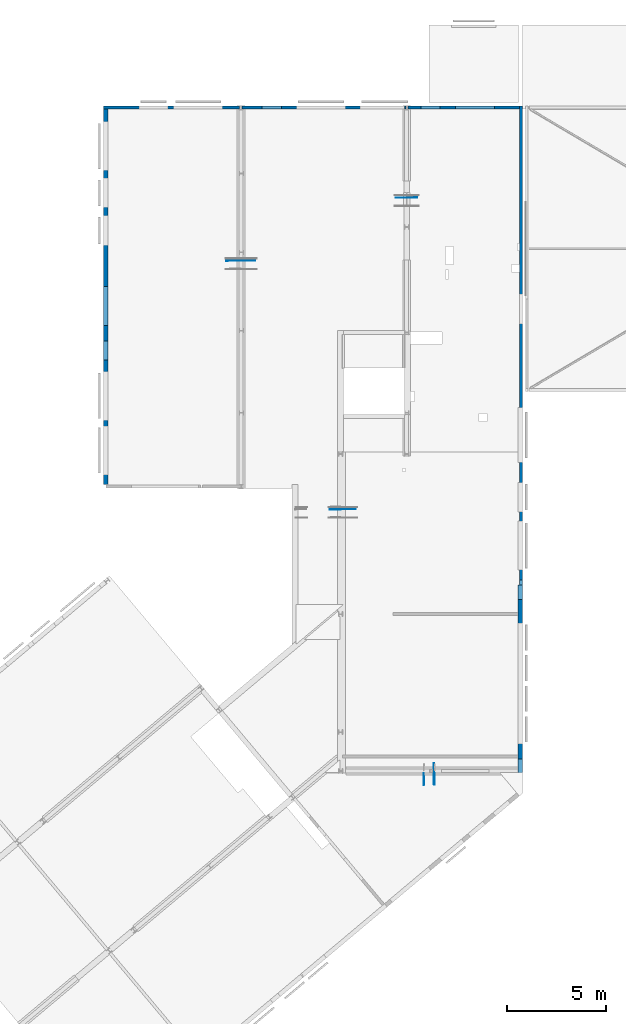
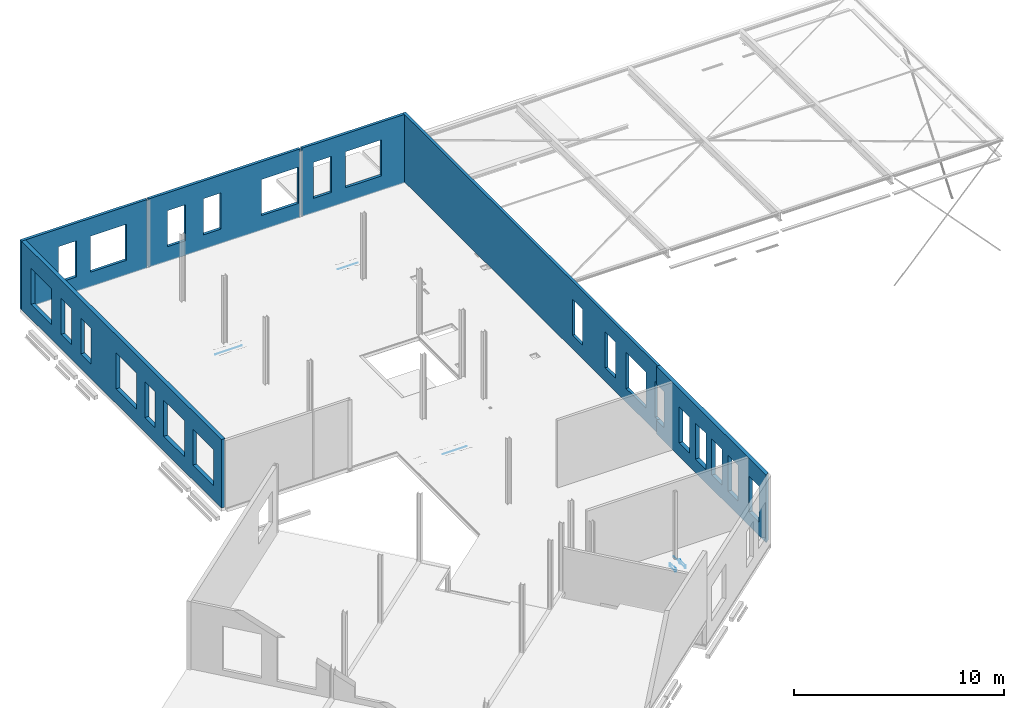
# One storey, part 13 of 16: 6 reinforcing bars, 6 walls, 24 openings.
"""IFC2X3 building model written with IfcOpenShell, lengths in millimetres."""

from ifc_helpers import new_model, entity, si_unit, converted_unit, derived_unit, direction, frame, frame_2d, origin, origin_2d_with_axis, place, context, subcontext, project, spatial, polyline, rectangle, outline, extrude, material, layer, layer_set, layer_usage, type_object, element, save


model = new_model("IFC2X3")

# Units and contexts
model_context = context("Model", 3, precision=0.01, world=origin(), true_north=direction((6.12303176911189e-17, 1.0)))
body_context = subcontext(model_context, "Body", "Model", "MODEL_VIEW")
ifc_project = project(units=[si_unit("LENGTHUNIT", "METRE", prefix="MILLI"), si_unit("AREAUNIT", "SQUARE_METRE"), si_unit("VOLUMEUNIT", "CUBIC_METRE"), converted_unit("PLANEANGLEUNIT", "DEGREE", entity("IfcRatioMeasure", 0.0174532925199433), si_unit("PLANEANGLEUNIT", "RADIAN"), dimensions=[0, 0, 0, 0, 0, 0, 0]), si_unit("MASSUNIT", "GRAM", prefix="KILO"), derived_unit("MASSDENSITYUNIT", [(si_unit("MASSUNIT", "GRAM", prefix="KILO"), 1), (si_unit("LENGTHUNIT", "METRE"), -3)]), derived_unit("MOMENTOFINERTIAUNIT", [(si_unit("LENGTHUNIT", "METRE"), 4)]), si_unit("TIMEUNIT", "SECOND"), si_unit("FREQUENCYUNIT", "HERTZ"), si_unit("THERMODYNAMICTEMPERATUREUNIT", "DEGREE_CELSIUS"), derived_unit("THERMALTRANSMITTANCEUNIT", [(si_unit("MASSUNIT", "GRAM", prefix="KILO"), 1), (si_unit("THERMODYNAMICTEMPERATUREUNIT", "KELVIN"), -1), (si_unit("TIMEUNIT", "SECOND"), -3)]), derived_unit("VOLUMETRICFLOWRATEUNIT", [(si_unit("LENGTHUNIT", "METRE"), 3), (si_unit("TIMEUNIT", "SECOND"), -1)]), si_unit("ELECTRICCURRENTUNIT", "AMPERE"), si_unit("ELECTRICVOLTAGEUNIT", "VOLT"), si_unit("POWERUNIT", "WATT"), si_unit("FORCEUNIT", "NEWTON", prefix="KILO"), si_unit("ILLUMINANCEUNIT", "LUX"), si_unit("LUMINOUSFLUXUNIT", "LUMEN"), si_unit("LUMINOUSINTENSITYUNIT", "CANDELA"), derived_unit("USERDEFINED", [(si_unit("MASSUNIT", "GRAM", prefix="KILO"), -1), (si_unit("LENGTHUNIT", "METRE"), -2), (si_unit("TIMEUNIT", "SECOND"), 3), (si_unit("LUMINOUSFLUXUNIT", "LUMEN"), 1)]), derived_unit("LINEARVELOCITYUNIT", [(si_unit("LENGTHUNIT", "METRE"), 1), (si_unit("TIMEUNIT", "SECOND"), -1)]), si_unit("PRESSUREUNIT", "PASCAL"), derived_unit("USERDEFINED", [(si_unit("LENGTHUNIT", "METRE"), -2), (si_unit("MASSUNIT", "GRAM", prefix="KILO"), 1), (si_unit("TIMEUNIT", "SECOND"), -2)]), derived_unit("LINEARFORCEUNIT", [(si_unit("MASSUNIT", "GRAM", prefix="KILO"), 1), (si_unit("LENGTHUNIT", "METRE"), 1), (si_unit("TIMEUNIT", "SECOND"), -2), (si_unit("LENGTHUNIT", "METRE"), -1)]), derived_unit("PLANARFORCEUNIT", [(si_unit("MASSUNIT", "GRAM", prefix="KILO"), 1), (si_unit("LENGTHUNIT", "METRE"), 1), (si_unit("TIMEUNIT", "SECOND"), -2), (si_unit("LENGTHUNIT", "METRE"), -2)])], contexts=[model_context])

# Site, building, storey
site_placement = place(None, origin())
site = spatial("IfcSite", under=ifc_project, at=site_placement, Name="Default", CompositionType="ELEMENT")
building_placement = place(site_placement, origin())
building = spatial("IfcBuilding", under=site, at=building_placement, CompositionType="ELEMENT")
storey_placement = place(building_placement, frame((0.0, 0.0, 3500.0)))
storey = spatial("IfcBuildingStorey", under=building, at=storey_placement, Name="01 eerste verdieping", CompositionType="ELEMENT", Elevation=3500.00000000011)

# Wall, openings
ifc_material = material(Name="f1_kalkzandsteen")
ifc_layer_1 = layer(ifc_material, 214.0)
ifc_layer_set_1 = layer_set([ifc_layer_1], Name="Basic Wall:BERSnl_22_WA_kalkzandsteen214")
ifc_layer_usage_1 = layer_usage(ifc_layer_set_1, "AXIS2", "NEGATIVE", 107.0)
wall_type_1 = type_object("IfcWallType", Name="Basic Wall:BERSnl_22_WA_kalkzandsteen214", PredefinedType="STANDARD", material=ifc_layer_set_1)
wall_1_placement = place(storey_placement, frame((13702.4349765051, 16287.2966282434, 350.0), z_axis=(0.0, 0.0, 1.0), x_axis=(0.0, 1.0, 0.0)))
wall_1 = element("IfcWallStandardCase", 1, at=wall_1_placement, inside=storey, type_object=wall_type_1, material=ifc_layer_usage_1, Name="Basic Wall:BERSnl_22_WA_kalkzandsteen214", ObjectType="Basic Wall:BERSnl_22_WA_kalkzandsteen214", context=body_context, shape_type="SweptSolid", body=[
    extrude(rectangle(XDim=19059.0, YDim=213.999999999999, at=frame_2d((9529.5, -6.3948846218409e-14), x_axis=(-1.0, 0.0))), origin(), (0.0, 0.0, 1.0), 3990.0),
])
opening_1_placement = place(wall_1_placement, origin())
element("IfcOpeningElement", 2, at=opening_1_placement, cuts=wall_1, Name="Basic Wall:BERSnl_22_WA_kalkzandsteen214", ObjectType="Opening", context=body_context, shape_type="SweptSolid", body=[
    extrude(rectangle(XDim=2099.99999999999, YDim=1986.0, at=frame_2d((-5.6843418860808e-13, 0.0), x_axis=(1.0, 0.0))), frame((17174.0, -107.0, 1900.0), z_axis=(0.0, 1.0, 0.0), x_axis=(0.0, 0.0, -1.0)), (0.0, 0.0, 1.0), 213.999999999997),
])
opening_2_placement = place(wall_1_placement, origin())
element("IfcOpeningElement", 3, at=opening_2_placement, cuts=wall_1, Name="Basic Wall:BERSnl_22_WA_kalkzandsteen214", ObjectType="Opening", context=body_context, shape_type="SweptSolid", body=[
    extrude(rectangle(XDim=2100.0, YDim=986.000000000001, at=frame_2d((5.6843418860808e-13, 0.0), x_axis=(1.0, 0.0))), frame((14794.1777390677, -107.0, 1900.0), z_axis=(0.0, 1.0, 0.0), x_axis=(0.0, 0.0, -1.0)), (0.0, 0.0, 1.0), 213.999999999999),
])
opening_3_placement = place(wall_1_placement, origin())
element("IfcOpeningElement", 4, at=opening_3_placement, cuts=wall_1, Name="Basic Wall:BERSnl_22_WA_kalkzandsteen214", ObjectType="Opening", context=body_context, shape_type="SweptSolid", body=[
    extrude(rectangle(XDim=2100.0, YDim=971.020444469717, at=frame_2d((5.6843418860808e-13, 4.34852154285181e-12), x_axis=(1.0, 0.0))), frame((12921.6675168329, -107.0, 1900.0), z_axis=(0.0, 1.0, 0.0), x_axis=(0.0, 0.0, -1.0)), (0.0, 0.0, 1.0), 213.999999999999),
])
opening_4_placement = place(wall_1_placement, origin())
element("IfcOpeningElement", 5, at=opening_4_placement, cuts=wall_1, Name="Basic Wall:BERSnl_22_WA_kalkzandsteen214", ObjectType="Opening", context=body_context, shape_type="SweptSolid", body=[
    extrude(rectangle(XDim=2099.99999999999, YDim=1978.44267040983, at=frame_2d((-5.6843418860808e-13, -2.1600499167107e-12), x_axis=(1.0, 0.0))), frame((9058.93595939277, -107.0, 1900.0), z_axis=(0.0, 1.0, 0.0), x_axis=(0.0, 0.0, -1.0)), (0.0, 0.0, 1.0), 213.999999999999),
])
opening_5_placement = place(wall_1_placement, origin())
element("IfcOpeningElement", 6, at=opening_5_placement, cuts=wall_1, Name="Basic Wall:BERSnl_22_WA_kalkzandsteen214", ObjectType="Opening", context=body_context, shape_type="SweptSolid", body=[
    extrude(rectangle(XDim=2100.0, YDim=985.715161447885, at=frame_2d((5.6843418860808e-13, -2.1600499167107e-12), x_axis=(1.0, 0.0))), frame((6798.21879128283, -107.0, 1900.0), z_axis=(0.0, 1.0, 0.0), x_axis=(0.0, 0.0, -1.0)), (0.0, 0.0, 1.0), 213.999999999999),
])
opening_6_placement = place(wall_1_placement, origin())
element("IfcOpeningElement", 7, at=opening_6_placement, cuts=wall_1, Name="Basic Wall:BERSnl_22_WA_kalkzandsteen214", ObjectType="Opening", context=body_context, shape_type="SweptSolid", body=[
    extrude(rectangle(XDim=2099.99999999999, YDim=1986.0, at=frame_2d((-5.6843418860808e-13, 0.0), x_axis=(1.0, 0.0))), frame((4500.17773906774, -107.0, 1900.0), z_axis=(0.0, 1.0, 0.0), x_axis=(0.0, 0.0, -1.0)), (0.0, 0.0, 1.0), 213.999999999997),
])
opening_7_placement = place(wall_1_placement, origin())
element("IfcOpeningElement", 8, at=opening_7_placement, cuts=wall_1, Name="Basic Wall:BERSnl_22_WA_kalkzandsteen214", ObjectType="Opening", context=body_context, shape_type="SweptSolid", body=[
    extrude(rectangle(XDim=2099.99999999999, YDim=1986.44267041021, at=frame_2d((-3.41060513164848e-13, 0.0), x_axis=(1.0, 0.0))), frame((1729.95640386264, -107.0, 1900.0), z_axis=(0.0, 1.0, 0.0), x_axis=(0.0, 0.0, -1.0)), (0.0, 0.0, 1.0), 213.999999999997),
])

ifc_layer_usage_2 = layer_usage(ifc_layer_set_1, "AXIS2", "NEGATIVE", 107.0)
wall_2_placement = place(storey_placement, frame((34726.4270571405, 703.534594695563, 410.0), z_axis=(0.0, 0.0, 1.0), x_axis=(0.0, 1.0, 0.0)))
wall_2 = element("IfcWallStandardCase", 9, at=wall_2_placement, inside=storey, type_object=wall_type_1, material=ifc_layer_usage_2, Name="Basic Wall:BERSnl_22_WA_kalkzandsteen214", ObjectType="Basic Wall:BERSnl_22_WA_kalkzandsteen214", context=body_context, shape_type="SweptSolid", body=[
    extrude(outline(polyline([(10488.7620335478, -107.0), (10488.7620335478, 43.0), (10488.7620335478, 107.0), (9081.7620335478, 107.0), (8931.7620335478, 107.0), (1853.41568474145, 107.0), (1703.41568474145, 107.0), (0.0, 107.0), (179.567321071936, -107.0), (10488.7620335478, -107.0)])), origin(), (0.0, 0.0, 1.0), 3930.0),
])
opening_8_placement = place(wall_2_placement, origin())
element("IfcOpeningElement", 10, at=opening_8_placement, cuts=wall_2, Name="Basic Wall:BERSnl_22_WA_kalkzandsteen214", ObjectType="Opening", context=body_context, shape_type="SweptSolid", body=[
    extrude(rectangle(XDim=2100.00000000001, YDim=735.999999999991, at=frame_2d((-2.27373675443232e-13, -1.08002495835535e-12), x_axis=(1.0, 0.0))), frame((10120.7620335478, -107.0, 1840.0), z_axis=(0.0, 1.0, 0.0), x_axis=(0.0, 0.0, -1.0)), (0.0, 0.0, 1.0), 214.000000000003),
])
opening_9_placement = place(wall_2_placement, origin())
element("IfcOpeningElement", 11, at=opening_9_placement, cuts=wall_2, Name="Basic Wall:BERSnl_22_WA_kalkzandsteen214", ObjectType="Opening", context=body_context, shape_type="SweptSolid", body=[
    extrude(rectangle(XDim=2100.00000000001, YDim=985.999999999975, at=origin_2d_with_axis()), frame((7815.03574275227, -107.0, 1840.0), z_axis=(0.0, 1.0, 0.0), x_axis=(0.0, 0.0, -1.0)), (0.0, 0.0, 1.0), 214.000000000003),
])
opening_10_placement = place(wall_2_placement, origin())
element("IfcOpeningElement", 12, at=opening_10_placement, cuts=wall_2, Name="Basic Wall:BERSnl_22_WA_kalkzandsteen214", ObjectType="Opening", context=body_context, shape_type="SweptSolid", body=[
    extrude(rectangle(XDim=2100.00000000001, YDim=985.999999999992, at=frame_2d((2.27373675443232e-13, 0.0), x_axis=(1.0, 0.0))), frame((6265.03574275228, -107.0, 1840.0), z_axis=(0.0, 1.0, 0.0), x_axis=(0.0, 0.0, -1.0)), (0.0, 0.0, 1.0), 214.000000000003),
])
opening_11_placement = place(wall_2_placement, origin())
element("IfcOpeningElement", 13, at=opening_11_placement, cuts=wall_2, Name="Basic Wall:BERSnl_22_WA_kalkzandsteen214", ObjectType="Opening", context=body_context, shape_type="SweptSolid", body=[
    extrude(rectangle(XDim=2100.00000000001, YDim=985.999999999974, at=frame_2d((-2.27373675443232e-13, 5.40012479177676e-13), x_axis=(1.0, 0.0))), frame((4715.03574275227, -107.0, 1840.0), z_axis=(0.0, 1.0, 0.0), x_axis=(0.0, 0.0, -1.0)), (0.0, 0.0, 1.0), 214.000000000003),
])
opening_12_placement = place(wall_2_placement, origin())
element("IfcOpeningElement", 14, at=opening_12_placement, cuts=wall_2, Name="Basic Wall:BERSnl_22_WA_kalkzandsteen214", ObjectType="Opening", context=body_context, shape_type="SweptSolid", body=[
    extrude(rectangle(XDim=2100.00000000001, YDim=985.999999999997, at=frame_2d((0.0, -2.8421709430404e-13), x_axis=(1.0, 0.0))), frame((3165.03574275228, -107.0, 1840.0), z_axis=(0.0, 1.0, 0.0), x_axis=(0.0, 0.0, -1.0)), (0.0, 0.0, 1.0), 214.000000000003),
])
opening_13_placement = place(wall_2_placement, origin())
element("IfcOpeningElement", 15, at=opening_13_placement, cuts=wall_2, Name="Basic Wall:BERSnl_22_WA_kalkzandsteen214", ObjectType="Opening", context=body_context, shape_type="SweptSolid", body=[
    extrude(rectangle(XDim=2099.99999999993, YDim=986.000000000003, at=frame_2d((-5.6843418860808e-13, 0.0), x_axis=(1.0, 0.0))), frame((1174.76203358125, -107.0, 1840.0), z_axis=(0.0, 1.0, 0.0), x_axis=(0.0, 0.0, -1.0)), (0.0, 0.0, 1.0), 214.000000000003),
])

ifc_layer_2 = layer(ifc_material, 150.0)
ifc_layer_set_2 = layer_set([ifc_layer_2], Name="Basic Wall:BERSnl_22_WA_kalkzandsteen150")
ifc_layer_usage_3 = layer_usage(ifc_layer_set_2, "AXIS2", "NEGATIVE", 75.0)
wall_type_2 = type_object("IfcWallType", Name="Basic Wall:BERSnl_22_WA_kalkzandsteen150", PredefinedType="STANDARD", material=ifc_layer_set_2)
wall_3_placement = place(storey_placement, frame((13595.4349765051, 35421.2966282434, 350.0)))
wall_3 = element("IfcWallStandardCase", 16, at=wall_3_placement, inside=storey, type_object=wall_type_2, material=ifc_layer_usage_3, Name="Basic Wall:BERSnl_22_WA_kalkzandsteen150", ObjectType="Basic Wall:BERSnl_22_WA_kalkzandsteen150", context=body_context, shape_type="SweptSolid", body=[
    extrude(rectangle(XDim=6902.0, YDim=150.000000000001, at=frame_2d((3451.0, 1.62714286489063e-12), x_axis=(-1.0, 0.0))), origin(), (0.0, 0.0, 1.0), 3990.0),
])
opening_14_placement = place(wall_3_placement, origin())
element("IfcOpeningElement", 17, at=opening_14_placement, cuts=wall_3, Name="Basic Wall:BERSnl_22_WA_kalkzandsteen150", ObjectType="Opening", context=body_context, shape_type="SweptSolid", body=[
    extrude(rectangle(XDim=2100.0, YDim=985.999999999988, at=frame_2d((-2.27373675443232e-13, 0.0), x_axis=(1.0, 0.0))), frame((2525.0, -75.0, 1900.0), z_axis=(0.0, 1.0, 0.0), x_axis=(0.0, 0.0, -1.0)), (0.0, 0.0, 1.0), 150.000000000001),
])
opening_15_placement = place(wall_3_placement, origin())
element("IfcOpeningElement", 18, at=opening_15_placement, cuts=wall_3, Name="Basic Wall:BERSnl_22_WA_kalkzandsteen150", ObjectType="Opening", context=body_context, shape_type="SweptSolid", body=[
    extrude(rectangle(XDim=2099.99999999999, YDim=1985.99999999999, at=frame_2d((-3.41060513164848e-13, 1.08002495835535e-12), x_axis=(1.0, 0.0))), frame((4795.0, -75.0, 1900.0), z_axis=(0.0, 1.0, 0.0), x_axis=(0.0, 0.0, -1.0)), (0.0, 0.0, 1.0), 150.000000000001),
])

ifc_layer_usage_4 = layer_usage(ifc_layer_set_2, "AXIS2", "NEGATIVE", 75.0)
wall_4_placement = place(storey_placement, frame((20605.1142984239, 35421.2966282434, 350.0)))
wall_4 = element("IfcWallStandardCase", 19, at=wall_4_placement, inside=storey, type_object=wall_type_2, material=ifc_layer_usage_4, Name="Basic Wall:BERSnl_22_WA_kalkzandsteen150", ObjectType="Basic Wall:BERSnl_22_WA_kalkzandsteen150", context=body_context, shape_type="SweptSolid", body=[
    extrude(rectangle(XDim=8340.0, YDim=150.000000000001, at=frame_2d((4170.0, 2.41584530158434e-13), x_axis=(-1.0, 0.0))), origin(), (0.0, 0.0, 1.0), 3990.0),
])
opening_16_placement = place(wall_4_placement, origin())
element("IfcOpeningElement", 20, at=opening_16_placement, cuts=wall_4, Name="Basic Wall:BERSnl_22_WA_kalkzandsteen150", ObjectType="Opening", context=body_context, shape_type="SweptSolid", body=[
    extrude(rectangle(XDim=2099.99999999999, YDim=985.999999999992, at=frame_2d((2.27373675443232e-13, 0.0), x_axis=(1.0, 0.0))), frame((1525.32067808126, -75.0, 1900.0), z_axis=(0.0, 1.0, 0.0), x_axis=(0.0, 0.0, -1.0)), (0.0, 0.0, 1.0), 150.000000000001),
])
opening_17_placement = place(wall_4_placement, origin())
element("IfcOpeningElement", 21, at=opening_17_placement, cuts=wall_4, Name="Basic Wall:BERSnl_22_WA_kalkzandsteen150", ObjectType="Opening", context=body_context, shape_type="SweptSolid", body=[
    extrude(rectangle(XDim=2099.99999999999, YDim=952.40286472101, at=frame_2d((0.0, 2.1600499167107e-12), x_axis=(1.0, 0.0))), frame((3498.52211044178, -75.0, 1900.0), z_axis=(0.0, 1.0, 0.0), x_axis=(0.0, 0.0, -1.0)), (0.0, 0.0, 1.0), 149.999999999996),
])
opening_18_placement = place(wall_4_placement, origin())
element("IfcOpeningElement", 22, at=opening_18_placement, cuts=wall_4, Name="Basic Wall:BERSnl_22_WA_kalkzandsteen150", ObjectType="Opening", context=body_context, shape_type="SweptSolid", body=[
    extrude(rectangle(XDim=2099.99999999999, YDim=2055.59713527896, at=frame_2d((-3.41060513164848e-13, 0.0), x_axis=(1.0, 0.0))), frame((7226.52211044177, -75.0, 1900.0), z_axis=(0.0, 1.0, 0.0), x_axis=(0.0, 0.0, -1.0)), (0.0, 0.0, 1.0), 150.000000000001),
])

ifc_layer_usage_5 = layer_usage(ifc_layer_set_2, "AXIS2", "NEGATIVE", 75.0)
wall_5_placement = place(storey_placement, frame((29038.4270571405, 35421.2966282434, 350.0)))
wall_5 = element("IfcWallStandardCase", 23, at=wall_5_placement, inside=storey, type_object=wall_type_2, material=ifc_layer_usage_5, Name="Basic Wall:BERSnl_22_WA_kalkzandsteen150", ObjectType="Basic Wall:BERSnl_22_WA_kalkzandsteen150", context=body_context, shape_type="SweptSolid", body=[
    extrude(rectangle(XDim=5645.0, YDim=150.000000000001, at=frame_2d((2822.5, 7.95807864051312e-13), x_axis=(-1.0, 0.0))), origin(), (0.0, 0.0, 1.0), 3990.0),
])
opening_19_placement = place(wall_5_placement, origin())
element("IfcOpeningElement", 24, at=opening_19_placement, cuts=wall_5, Name="Basic Wall:BERSnl_22_WA_kalkzandsteen150", ObjectType="Opening", context=body_context, shape_type="SweptSolid", body=[
    extrude(rectangle(XDim=2099.99999999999, YDim=1985.99999999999, at=frame_2d((-4.54747350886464e-13, -2.1600499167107e-12), x_axis=(1.0, 0.0))), frame((3395.73959734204, -75.0, 1900.0), z_axis=(0.0, 1.0, 0.0), x_axis=(0.0, 0.0, -1.0)), (0.0, 0.0, 1.0), 150.000000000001),
])
opening_20_placement = place(wall_5_placement, origin())
element("IfcOpeningElement", 25, at=opening_20_placement, cuts=wall_5, Name="Basic Wall:BERSnl_22_WA_kalkzandsteen150", ObjectType="Opening", context=body_context, shape_type="SweptSolid", body=[
    extrude(rectangle(XDim=2100.0, YDim=985.999999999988, at=frame_2d((-5.6843418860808e-13, 2.1600499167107e-12), x_axis=(1.0, 0.0))), frame((1138.41078408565, -75.0, 1900.0), z_axis=(0.0, 1.0, 0.0), x_axis=(0.0, 0.0, -1.0)), (0.0, 0.0, 1.0), 150.000000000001),
])

ifc_layer_usage_6 = layer_usage(ifc_layer_set_2, "AXIS2", "NEGATIVE", 75.0)
wall_6_placement = place(storey_placement, frame((34758.4270571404, 11192.2966282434, 410.0), z_axis=(0.0, 0.0, 1.0), x_axis=(0.0, 1.0, 0.0)))
wall_6 = element("IfcWallStandardCase", 26, at=wall_6_placement, inside=storey, type_object=wall_type_2, material=ifc_layer_usage_6, Name="Basic Wall:BERSnl_22_WA_kalkzandsteen150", ObjectType="Basic Wall:BERSnl_22_WA_kalkzandsteen150", context=body_context, shape_type="SweptSolid", body=[
    extrude(rectangle(XDim=24304.0, YDim=150.000000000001, at=frame_2d((12152.0, -3.83693077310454e-13), x_axis=(-1.0, 0.0))), origin(), (0.0, 0.0, 1.0), 3930.0),
])
opening_21_placement = place(wall_6_placement, origin())
element("IfcOpeningElement", 27, at=opening_21_placement, cuts=wall_6, Name="Basic Wall:BERSnl_22_WA_kalkzandsteen150", ObjectType="Opening", context=body_context, shape_type="SweptSolid", body=[
    extrude(rectangle(XDim=2100.00000000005, YDim=985.999999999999, at=frame_2d((-5.6843418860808e-13, -1.10844666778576e-12), x_axis=(1.0, 0.0))), frame((7626.0, -75.0, 1840.0), z_axis=(0.0, 1.0, 0.0), x_axis=(0.0, 0.0, -1.0)), (0.0, 0.0, 1.0), 150.000000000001),
])
opening_22_placement = place(wall_6_placement, origin())
element("IfcOpeningElement", 28, at=opening_22_placement, cuts=wall_6, Name="Basic Wall:BERSnl_22_WA_kalkzandsteen150", ObjectType="Opening", context=body_context, shape_type="SweptSolid", body=[
    extrude(rectangle(XDim=2100.00000000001, YDim=987.000000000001, at=origin_2d_with_axis()), frame((4496.50000000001, -75.0, 1840.0), z_axis=(0.0, 1.0, 0.0), x_axis=(0.0, 0.0, -1.0)), (0.0, 0.0, 1.0), 150.000000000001),
])
opening_23_placement = place(wall_6_placement, origin())
element("IfcOpeningElement", 29, at=opening_23_placement, cuts=wall_6, Name="Basic Wall:BERSnl_22_WA_kalkzandsteen150", ObjectType="Opening", context=body_context, shape_type="SweptSolid", body=[
    extrude(rectangle(XDim=2100.00000000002, YDim=1920.00000000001, at=frame_2d((-5.6843418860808e-13, 0.0), x_axis=(1.0, 0.0))), frame((2039.0, -75.0, 1840.0), z_axis=(0.0, 1.0, 0.0), x_axis=(0.0, 0.0, -1.0)), (0.0, 0.0, 1.0), 150.000000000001),
])
opening_24_placement = place(wall_6_placement, origin())
element("IfcOpeningElement", 30, at=opening_24_placement, cuts=wall_6, Name="Basic Wall:BERSnl_22_WA_kalkzandsteen150", ObjectType="Opening", context=body_context, shape_type="SweptSolid", body=[
    extrude(rectangle(XDim=2100.0, YDim=249.000000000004, at=frame_2d((-2.27373675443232e-13, 0.0), x_axis=(1.0, 0.0))), frame((124.500000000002, -75.0, 1840.0), z_axis=(0.0, 1.0, 0.0), x_axis=(0.0, 0.0, -1.0)), (0.0, 0.0, 1.0), 150.000000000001),
])

# Reinforcing bars
reinforcing_bar_1_placement = place(storey_placement, origin())
element("IfcReinforcingBar", 31, at=reinforcing_bar_1_placement, inside=storey, Name="Rebar Bar:SR_ø10 1 : Shape 00 3: 1", ObjectType="Rebar Bar:SR_ø10 1", BarLength=1463.33708657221, BarRole="NOTDEFINED", CrossSectionArea=7.85398163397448e-05, NominalDiameter=10.0, context=body_context, shape_type="AdvancedSweptSolid", body=[
    entity("IfcSweptDiskSolid", entity("IfcCompositeCurve", [entity("IfcCompositeCurveSegment", "CONTINUOUS", True, entity("IfcPolyline", [entity("IfcCartesianPoint", [19819.2987175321, 27632.3298942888, 243.499999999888]), entity("IfcCartesianPoint", [21282.603296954, 27642.0837028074, 243.499999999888])]))], False), 5.0, None, 0.0, 1.0),
])
reinforcing_bar_2_placement = place(storey_placement, origin())
element("IfcReinforcingBar", 32, at=reinforcing_bar_2_placement, inside=storey, Name="Rebar Bar:SR_ø10 1 : Shape 00 3: 1", ObjectType="Rebar Bar:SR_ø10 1", BarLength=1304.68557256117, BarRole="NOTDEFINED", CrossSectionArea=7.85398163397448e-05, NominalDiameter=10.0, context=body_context, shape_type="AdvancedSweptSolid", body=[
    entity("IfcSweptDiskSolid", entity("IfcCompositeCurve", [entity("IfcCompositeCurveSegment", "CONTINUOUS", True, entity("IfcPolyline", [entity("IfcCartesianPoint", [25073.9467071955, 15020.3447739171, 243.499999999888]), entity("IfcCartesianPoint", [26378.603296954, 15029.0410977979, 243.499999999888])]))], False), 5.0, None, 0.0, 1.0),
])
reinforcing_bar_3_placement = place(storey_placement, origin())
element("IfcReinforcingBar", 33, at=reinforcing_bar_3_placement, inside=storey, Name="Rebar Bar:SR_ø10 1 : Shape 00 3: 1", ObjectType="Rebar Bar:SR_ø10 1", BarLength=1099.7975223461, BarRole="NOTDEFINED", CrossSectionArea=7.85398163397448e-05, NominalDiameter=10.0, context=body_context, shape_type="AdvancedSweptSolid", body=[
    entity("IfcSweptDiskSolid", entity("IfcCompositeCurve", [entity("IfcCompositeCurveSegment", "CONTINUOUS", True, entity("IfcPolyline", [entity("IfcCartesianPoint", [28410.8725518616, 30839.2130703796, 243.499999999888]), entity("IfcCartesianPoint", [29510.6456428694, 30846.5437220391, 243.499999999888])]))], False), 5.0, None, 0.0, 1.0),
])
reinforcing_bar_4_placement = place(storey_placement, origin())
ifc_direction_1 = entity("IfcDirection", [0.0, 0.0, 1.0])
element("IfcReinforcingBar", 34, at=reinforcing_bar_4_placement, inside=storey, Name="Rebar Bar:SR_ø8 : Shape Rebar Shape 5: 1", ObjectType="Rebar Bar:SR_ø8", BarLength=1853.05716131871, BarRole="NOTDEFINED", CrossSectionArea=5.02654824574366e-05, NominalDiameter=8.0, context=body_context, shape_type="AdvancedSweptSolid", body=[
    entity("IfcSweptDiskSolid", entity("IfcCompositeCurve", [entity("IfcCompositeCurveSegment", "CONTINUOUS", True, entity("IfcPolyline", [entity("IfcCartesianPoint", [29842.404438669, 1538.22734646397, 189.311146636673]), entity("IfcCartesianPoint", [29841.9909532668, 1590.22570249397, 189.311146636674])])), entity("IfcCompositeCurveSegment", "CONTINUOUS", True, entity("IfcTrimmedCurve", entity("IfcCircle", entity("IfcAxis2Placement3D", entity("IfcCartesianPoint", [29841.9909532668, 1590.22570249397, 233.311146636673]), entity("IfcDirection", [0.999968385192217, 0.00795164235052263, 0.0]), entity("IfcDirection", [-0.00795164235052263, 0.999968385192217, 0.0])), 44.0), [entity("IfcParameterValue", 270.0)], [entity("IfcParameterValue", 360.0)], True, "PARAMETER")), entity("IfcCompositeCurveSegment", "CONTINUOUS", True, entity("IfcPolyline", [entity("IfcCartesianPoint", [29841.6410810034, 1634.22431144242, 233.311146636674]), entity("IfcCartesianPoint", [29841.6410810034, 1634.22431144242, 317.533605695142])])), entity("IfcCompositeCurveSegment", "CONTINUOUS", True, entity("IfcTrimmedCurve", entity("IfcCircle", entity("IfcAxis2Placement3D", entity("IfcCartesianPoint", [29841.9909532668, 1590.22570249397, 317.533605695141]), entity("IfcDirection", [0.999968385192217, 0.00795164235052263, 0.0]), ifc_direction_1), 44.0), [entity("IfcParameterValue", 270.0)], [entity("IfcParameterValue", 360.0)], True, "PARAMETER")), entity("IfcCompositeCurveSegment", "CONTINUOUS", True, entity("IfcPolyline", [entity("IfcCartesianPoint", [29841.9909532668, 1590.22570249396, 361.533605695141]), entity("IfcCartesianPoint", [29845.9862003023, 1087.79858738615, 361.533605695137])])), entity("IfcCompositeCurveSegment", "CONTINUOUS", True, entity("IfcTrimmedCurve", entity("IfcCircle", entity("IfcAxis2Placement3D", entity("IfcCartesianPoint", [29843.9482721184, 1087.78238199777, 317.58082892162]), entity("IfcDirection", [0.998895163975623, 0.00794310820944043, -0.0463180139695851]), entity("IfcDirection", [0.00795164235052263, -0.999968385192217, 0.0])), 44.0), [entity("IfcParameterValue", 270.0)], [entity("IfcParameterValue", 360.0)], True, "PARAMETER")), entity("IfcCompositeCurveSegment", "CONTINUOUS", True, entity("IfcPolyline", [entity("IfcCartesianPoint", [29844.2981443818, 1043.78377304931, 317.58082892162]), entity("IfcCartesianPoint", [29840.3742536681, 1043.75257068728, 232.952776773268])])), entity("IfcCompositeCurveSegment", "CONTINUOUS", True, entity("IfcTrimmedCurve", entity("IfcCircle", entity("IfcAxis2Placement3D", entity("IfcCartesianPoint", [29840.0243814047, 1087.75117963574, 232.952776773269]), entity("IfcDirection", [0.998895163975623, 0.00794310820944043, -0.0463180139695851]), entity("IfcDirection", [-0.0463165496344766, -0.000368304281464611, -0.998926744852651])), 44.0), [entity("IfcParameterValue", 270.0)], [entity("IfcParameterValue", 360.0)], True, "PARAMETER")), entity("IfcCompositeCurveSegment", "CONTINUOUS", True, entity("IfcPolyline", [entity("IfcCartesianPoint", [29837.9864532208, 1087.73497424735, 189.0]), entity("IfcCartesianPoint", [29833.9869918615, 1590.69206672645, 189.0])])), entity("IfcCompositeCurveSegment", "CONTINUOUS", True, entity("IfcTrimmedCurve", entity("IfcCircle", entity("IfcAxis2Placement3D", entity("IfcCartesianPoint", [29833.9869918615, 1590.69206672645, 233.0]), entity("IfcDirection", [0.999968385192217, 0.00795164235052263, 0.0]), entity("IfcDirection", [-0.00795164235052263, 0.999968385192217, 0.0])), 44.0), [entity("IfcParameterValue", 270.0)], [entity("IfcParameterValue", 360.0)], True, "PARAMETER")), entity("IfcCompositeCurveSegment", "CONTINUOUS", True, entity("IfcPolyline", [entity("IfcCartesianPoint", [29833.6371195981, 1634.69067567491, 233.0]), entity("IfcCartesianPoint", [29833.6371195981, 1634.69067567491, 318.227170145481])])), entity("IfcCompositeCurveSegment", "CONTINUOUS", True, entity("IfcTrimmedCurve", entity("IfcCircle", entity("IfcAxis2Placement3D", entity("IfcCartesianPoint", [29833.9869918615, 1590.69206672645, 318.227170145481]), entity("IfcDirection", [0.999968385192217, 0.00795164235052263, 0.0]), ifc_direction_1), 44.0), [entity("IfcParameterValue", 270.0)], [entity("IfcParameterValue", 360.0)], True, "PARAMETER")), entity("IfcCompositeCurveSegment", "CONTINUOUS", True, entity("IfcPolyline", [entity("IfcCartesianPoint", [29833.9869918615, 1590.69206672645, 362.227170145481]), entity("IfcCartesianPoint", [29834.9965936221, 1463.72837826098, 362.22717014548])]))], False), 4.0, None, 0.0, 547.0),
])
reinforcing_bar_5_placement = place(storey_placement, origin())
ifc_direction_2 = entity("IfcDirection", [0.0, 0.0, 1.0])
element("IfcReinforcingBar", 35, at=reinforcing_bar_5_placement, inside=storey, Name="Rebar Bar:SR_ø8 : Shape Rebar Shape 5: 2", ObjectType="Rebar Bar:SR_ø8", BarLength=1853.05716131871, BarRole="NOTDEFINED", CrossSectionArea=5.02654824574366e-05, NominalDiameter=8.0, context=body_context, shape_type="AdvancedSweptSolid", body=[
    entity("IfcSweptDiskSolid", entity("IfcCompositeCurve", [entity("IfcCompositeCurveSegment", "CONTINUOUS", True, entity("IfcPolyline", [entity("IfcCartesianPoint", [30381.1259943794, 1542.5112030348, 189.311146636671]), entity("IfcCartesianPoint", [30380.7125089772, 1594.50955906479, 189.311146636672])])), entity("IfcCompositeCurveSegment", "CONTINUOUS", True, entity("IfcTrimmedCurve", entity("IfcCircle", entity("IfcAxis2Placement3D", entity("IfcCartesianPoint", [30380.7125089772, 1594.50955906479, 233.311146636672]), entity("IfcDirection", [0.999968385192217, 0.00795164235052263, 0.0]), entity("IfcDirection", [-0.00795164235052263, 0.999968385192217, 0.0])), 44.0), [entity("IfcParameterValue", 270.0)], [entity("IfcParameterValue", 360.0)], True, "PARAMETER")), entity("IfcCompositeCurveSegment", "CONTINUOUS", True, entity("IfcPolyline", [entity("IfcCartesianPoint", [30380.3626367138, 1638.50816801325, 233.311146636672]), entity("IfcCartesianPoint", [30380.3626367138, 1638.50816801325, 317.53360569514])])), entity("IfcCompositeCurveSegment", "CONTINUOUS", True, entity("IfcTrimmedCurve", entity("IfcCircle", entity("IfcAxis2Placement3D", entity("IfcCartesianPoint", [30380.7125089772, 1594.50955906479, 317.53360569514]), entity("IfcDirection", [0.999968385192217, 0.00795164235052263, 0.0]), ifc_direction_2), 44.0), [entity("IfcParameterValue", 270.0)], [entity("IfcParameterValue", 360.0)], True, "PARAMETER")), entity("IfcCompositeCurveSegment", "CONTINUOUS", True, entity("IfcPolyline", [entity("IfcCartesianPoint", [30380.7125089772, 1594.50955906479, 361.533605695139]), entity("IfcCartesianPoint", [30384.7077560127, 1092.08244395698, 361.533605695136])])), entity("IfcCompositeCurveSegment", "CONTINUOUS", True, entity("IfcTrimmedCurve", entity("IfcCircle", entity("IfcAxis2Placement3D", entity("IfcCartesianPoint", [30382.6698278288, 1092.0662385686, 317.580828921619]), entity("IfcDirection", [0.998895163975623, 0.00794310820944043, -0.0463180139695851]), entity("IfcDirection", [0.00795164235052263, -0.999968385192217, 0.0])), 44.0), [entity("IfcParameterValue", 270.0)], [entity("IfcParameterValue", 360.0)], True, "PARAMETER")), entity("IfcCompositeCurveSegment", "CONTINUOUS", True, entity("IfcPolyline", [entity("IfcCartesianPoint", [30383.0197000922, 1048.06762962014, 317.580828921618]), entity("IfcCartesianPoint", [30379.0958093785, 1048.03642725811, 232.952776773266])])), entity("IfcCompositeCurveSegment", "CONTINUOUS", True, entity("IfcTrimmedCurve", entity("IfcCircle", entity("IfcAxis2Placement3D", entity("IfcCartesianPoint", [30378.7459371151, 1092.03503620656, 232.952776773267]), entity("IfcDirection", [0.998895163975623, 0.00794310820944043, -0.0463180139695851]), entity("IfcDirection", [-0.0463165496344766, -0.000368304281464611, -0.998926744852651])), 44.0), [entity("IfcParameterValue", 270.0)], [entity("IfcParameterValue", 360.0)], True, "PARAMETER")), entity("IfcCompositeCurveSegment", "CONTINUOUS", True, entity("IfcPolyline", [entity("IfcCartesianPoint", [30376.7080089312, 1092.01883081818, 189.0]), entity("IfcCartesianPoint", [30372.7085475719, 1594.97592329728, 189.0])])), entity("IfcCompositeCurveSegment", "CONTINUOUS", True, entity("IfcTrimmedCurve", entity("IfcCircle", entity("IfcAxis2Placement3D", entity("IfcCartesianPoint", [30372.7085475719, 1594.97592329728, 233.0]), entity("IfcDirection", [0.999968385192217, 0.00795164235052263, 0.0]), entity("IfcDirection", [-0.00795164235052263, 0.999968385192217, 0.0])), 44.0), [entity("IfcParameterValue", 270.0)], [entity("IfcParameterValue", 360.0)], True, "PARAMETER")), entity("IfcCompositeCurveSegment", "CONTINUOUS", True, entity("IfcPolyline", [entity("IfcCartesianPoint", [30372.3586753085, 1638.97453224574, 233.0]), entity("IfcCartesianPoint", [30372.3586753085, 1638.97453224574, 318.227170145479])])), entity("IfcCompositeCurveSegment", "CONTINUOUS", True, entity("IfcTrimmedCurve", entity("IfcCircle", entity("IfcAxis2Placement3D", entity("IfcCartesianPoint", [30372.7085475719, 1594.97592329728, 318.227170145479]), entity("IfcDirection", [0.999968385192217, 0.00795164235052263, 0.0]), ifc_direction_2), 44.0), [entity("IfcParameterValue", 270.0)], [entity("IfcParameterValue", 360.0)], True, "PARAMETER")), entity("IfcCompositeCurveSegment", "CONTINUOUS", True, entity("IfcPolyline", [entity("IfcCartesianPoint", [30372.7085475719, 1594.97592329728, 362.227170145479]), entity("IfcCartesianPoint", [30373.7181493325, 1468.01223483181, 362.227170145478])]))], False), 4.0, None, 0.0, 547.0),
])
reinforcing_bar_6_placement = place(storey_placement, origin())
element("IfcReinforcingBar", 36, at=reinforcing_bar_6_placement, inside=storey, Name="Rebar Bar:SR_ø10 1 : Shape 00 3: 1", ObjectType="Rebar Bar:SR_ø10 1", BarLength=1074.65790073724, BarRole="NOTDEFINED", CrossSectionArea=7.85398163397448e-05, NominalDiameter=10.0, context=body_context, shape_type="AdvancedSweptSolid", body=[
    entity("IfcSweptDiskSolid", entity("IfcCompositeCurve", [entity("IfcCompositeCurveSegment", "CONTINUOUS", True, entity("IfcPolyline", [entity("IfcCartesianPoint", [30349.6468952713, 1072.49892254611, 243.499999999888]), entity("IfcCartesianPoint", [30350.7782308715, 2147.15622778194, 243.499999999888])]))], False), 5.0, None, 0.0, 1.0),
])

save(model, "model.ifc")
